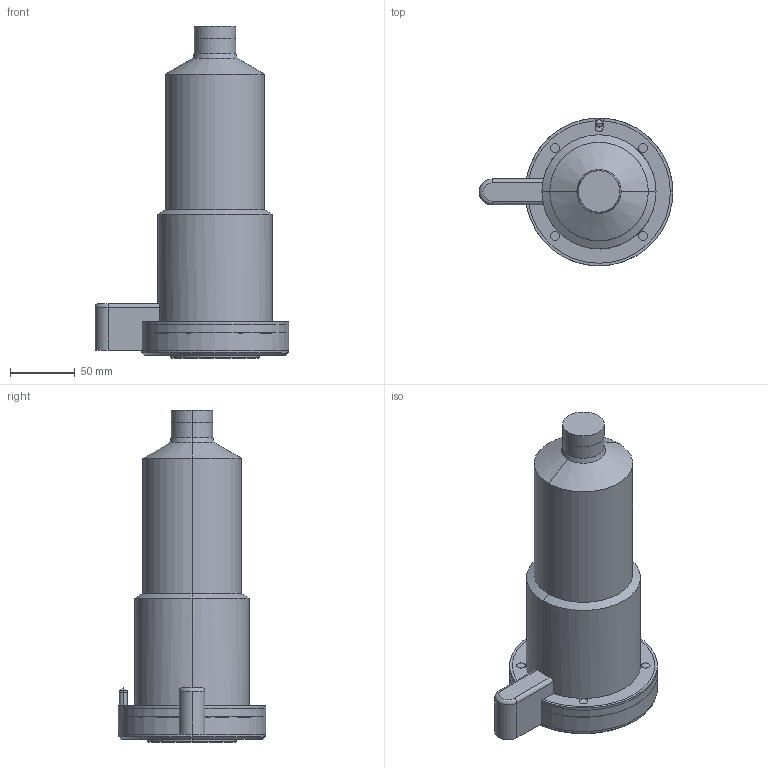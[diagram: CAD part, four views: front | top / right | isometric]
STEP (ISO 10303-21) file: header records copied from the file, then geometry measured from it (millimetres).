
FILE_DESCRIPTION (( 'STEP AP214' ), '1' );
FILE_NAME ('SR24_CLOSED_250_HELICAL.STEP', '2009-08-21T14:23:28', ( 'Synventive Molding Solutions' ), ( 'Synventive Molding Solutions' ), 'SwSTEP 2.0', 'SolidWorks 2008', '' );
FILE_SCHEMA (( 'AUTOMOTIVE_DESIGN' ));
Length unit declared in the file: millimetre
Products named in the file (1): SR24_CLOSED_250_HELICAL
Bounding box: 149.5 x 114 x 256 mm (x, y, z)
Volume: 2124029.1 mm3; surface area: 184567.2 mm2
Topology: 3 solids, 3 shells, 253 faces, 640 edges, 399 vertices
Faces by surface type: cylinder 118, plane 54, cone 34, bspline 26, torus 19, sphere 2
Entity records: 20216 total; most frequent: CARTESIAN_POINT 11624, ORIENTED_EDGE 1272, DIRECTION 1154, EDGE_CURVE 636, AXIS2_PLACEMENT_3D 460, VERTEX_POINT 399, EDGE_LOOP 277, UNCERTAINTY_MEASURE_WITH_UNIT 257
